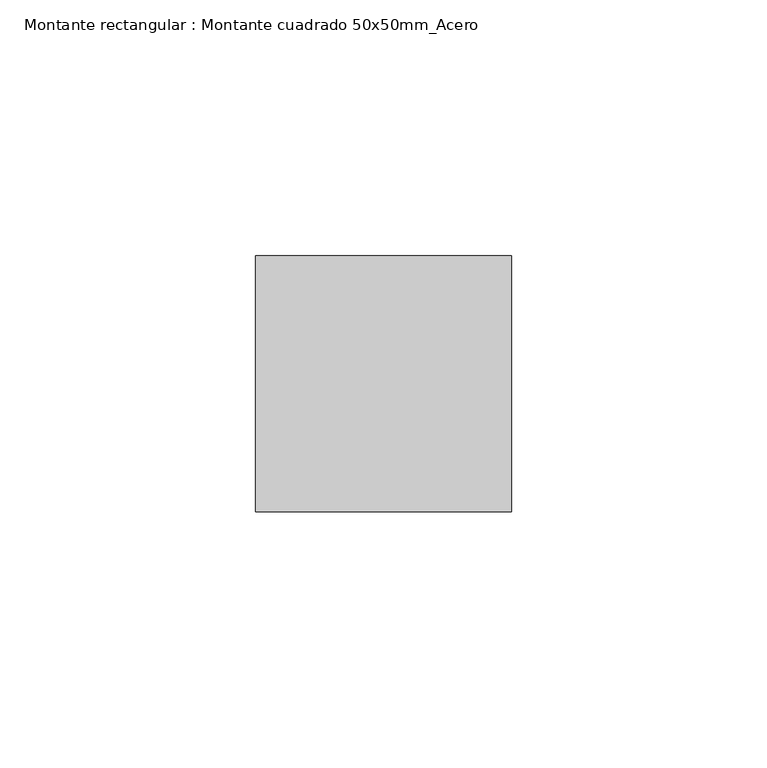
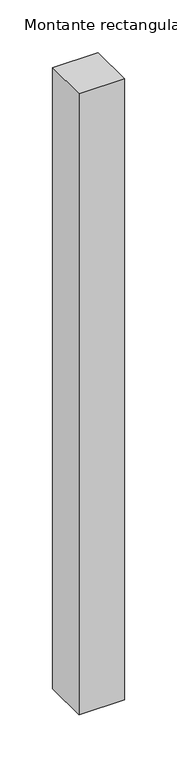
"""IFC4 building model written with IfcOpenShell, lengths in millimetres: member geometry, Montante rectangular : Montante cuadrado 50x50mm_Acero."""

from ifc_helpers import new_model, si_unit, frame, origin, place, context, project, spatial, polyline, outline, extrude, source, transform, mapped, element, save


def montante_rectangular_montante_cuadrado_50x50mm_acero_2ac5a09f(model_context):
    return source(origin(), model_context, "Body", "SweptSolid", [
        extrude(outline(polyline([(0.0, 0.0), (0.0, -50.0), (-50.0, -50.0), (-50.0, 0.0), (0.0, 0.0)])), frame((0.0, 0.0, -720.0), z_axis=(0.0, 0.0, 1.0), x_axis=(1.0, 0.0, 0.0)), (0.0, 0.0, 1.0), 720.0),
    ])


if __name__ == "__main__":
    model = new_model("IFC4")
    model_context = context("Model", 3, world=origin())
    ifc_project = project(units=[si_unit("LENGTHUNIT", "METRE", prefix="MILLI")], contexts=[model_context])
    site = spatial("IfcSite", under=ifc_project)
    building = spatial("IfcBuilding", under=site)
    placement = place(None, origin())
    montante_rectangular_montante_cuadrado_50x50mm_acero_shape = montante_rectangular_montante_cuadrado_50x50mm_acero_2ac5a09f(model_context)
    element("IfcMember", 1, ObjectType="Montante rectangular : Montante cuadrado 50x50mm_Acero", at=placement, inside=building, context=model_context, shape_type="MappedRepresentation", body=[
        mapped(montante_rectangular_montante_cuadrado_50x50mm_acero_shape, transform((0.0, 0.0, 0.0), x_axis=(1.0, 0.0, 0.0), y_axis=(0.0, 1.0, 0.0), z_axis=(0.0, 0.0, 1.0))),
    ])
    save(model, "model.ifc")
